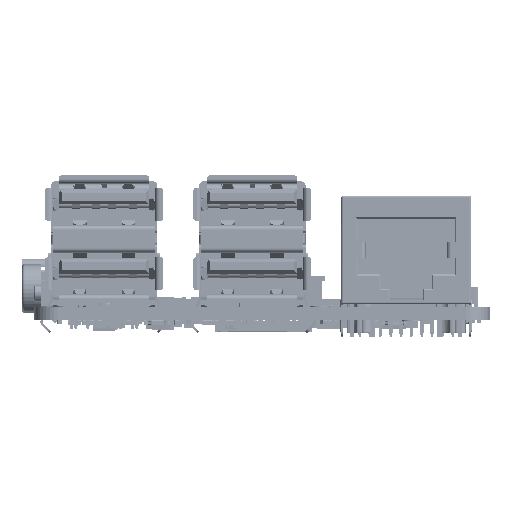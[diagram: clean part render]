
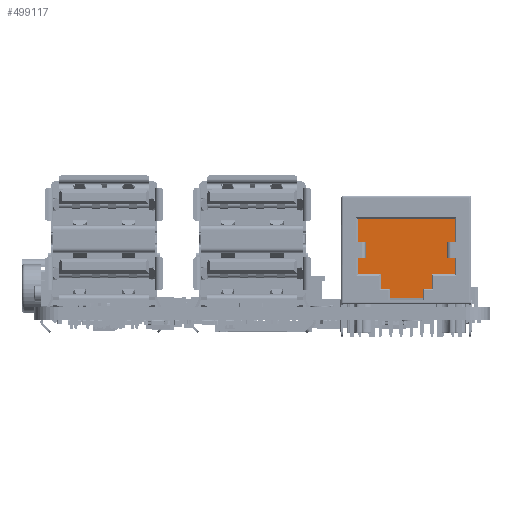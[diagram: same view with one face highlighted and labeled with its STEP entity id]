
A CAD part, front view. The second image highlights one B-rep face of the part: STEP entity #499117.
In plain terms, the highlighted planar face has unit normal (0, -1, 0).
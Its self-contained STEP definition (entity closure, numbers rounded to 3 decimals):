
#151596=DIRECTION('',(0.,0.,1.));
#151597=VECTOR('',#151596,2.77);
#151598=CARTESIAN_POINT('',(36.803,6.8,9.68));
#151599=LINE('',#151598,#151597);
#151603=DIRECTION('',(1.,0.,0.));
#151604=VECTOR('',#151603,11.9);
#151605=CARTESIAN_POINT('',(36.803,6.8,12.45));
#151606=LINE('',#151605,#151604);
#151610=DIRECTION('',(0.,0.,-1.));
#151611=VECTOR('',#151610,2.77);
#151612=CARTESIAN_POINT('',(48.703,6.8,12.45));
#151613=LINE('',#151612,#151611);
#151617=DIRECTION('',(-1.,0.,0.));
#151618=VECTOR('',#151617,0.95);
#151619=CARTESIAN_POINT('',(48.703,6.8,9.68));
#151620=LINE('',#151619,#151618);
#151624=DIRECTION('',(0.,0.,-1.));
#151625=VECTOR('',#151624,2.);
#151626=CARTESIAN_POINT('',(47.753,6.8,9.68));
#151627=LINE('',#151626,#151625);
#151631=DIRECTION('',(1.,0.,0.));
#151632=VECTOR('',#151631,0.95);
#151633=CARTESIAN_POINT('',(47.753,6.8,7.68));
#151634=LINE('',#151633,#151632);
#151638=DIRECTION('',(0.,0.,-1.));
#151639=VECTOR('',#151638,2.03);
#151640=CARTESIAN_POINT('',(48.703,6.8,7.68));
#151641=LINE('',#151640,#151639);
#151645=DIRECTION('',(-1.,0.,0.));
#151646=VECTOR('',#151645,2.8);
#151647=CARTESIAN_POINT('',(48.703,6.8,5.65));
#151648=LINE('',#151647,#151646);
#151652=DIRECTION('',(0.,0.,-1.));
#151653=VECTOR('',#151652,1.76);
#151654=CARTESIAN_POINT('',(45.903,6.8,5.65));
#151655=LINE('',#151654,#151653);
#151659=DIRECTION('',(-1.,0.,0.));
#151660=VECTOR('',#151659,1.12);
#151661=CARTESIAN_POINT('',(45.903,6.8,3.89));
#151662=LINE('',#151661,#151660);
#151666=DIRECTION('',(0.,0.,-1.));
#151667=VECTOR('',#151666,1.14);
#151668=CARTESIAN_POINT('',(44.783,6.8,3.89));
#151669=LINE('',#151668,#151667);
#151673=DIRECTION('',(-1.,0.,0.));
#151674=VECTOR('',#151673,4.06);
#151675=CARTESIAN_POINT('',(44.783,6.8,2.75));
#151676=LINE('',#151675,#151674);
#151680=DIRECTION('',(0.,0.,1.));
#151681=VECTOR('',#151680,1.14);
#151682=CARTESIAN_POINT('',(40.723,6.8,2.75));
#151683=LINE('',#151682,#151681);
#151687=DIRECTION('',(-1.,0.,0.));
#151688=VECTOR('',#151687,1.12);
#151689=CARTESIAN_POINT('',(40.723,6.8,3.89));
#151690=LINE('',#151689,#151688);
#151694=DIRECTION('',(0.,0.,1.));
#151695=VECTOR('',#151694,1.76);
#151696=CARTESIAN_POINT('',(39.603,6.8,3.89));
#151697=LINE('',#151696,#151695);
#151701=DIRECTION('',(-1.,0.,0.));
#151702=VECTOR('',#151701,2.8);
#151703=CARTESIAN_POINT('',(39.603,6.8,5.65));
#151704=LINE('',#151703,#151702);
#151708=DIRECTION('',(0.,0.,1.));
#151709=VECTOR('',#151708,2.03);
#151710=CARTESIAN_POINT('',(36.803,6.8,5.65));
#151711=LINE('',#151710,#151709);
#151715=DIRECTION('',(1.,0.,0.));
#151716=VECTOR('',#151715,0.95);
#151717=CARTESIAN_POINT('',(36.803,6.8,7.68));
#151718=LINE('',#151717,#151716);
#151722=DIRECTION('',(0.,0.,1.));
#151723=VECTOR('',#151722,2.);
#151724=CARTESIAN_POINT('',(37.753,6.8,7.68));
#151725=LINE('',#151724,#151723);
#151729=DIRECTION('',(-1.,0.,0.));
#151730=VECTOR('',#151729,0.95);
#151731=CARTESIAN_POINT('',(37.753,6.8,9.68));
#151732=LINE('',#151731,#151730);
#322725=CARTESIAN_POINT('',(36.803,6.8,9.68));
#322726=VERTEX_POINT('',#322725);
#322727=CARTESIAN_POINT('',(37.753,6.8,9.68));
#322728=VERTEX_POINT('',#322727);
#322847=CARTESIAN_POINT('',(36.803,6.8,7.68));
#322848=VERTEX_POINT('',#322847);
#322849=CARTESIAN_POINT('',(36.803,6.8,5.65));
#322850=VERTEX_POINT('',#322849);
#322851=CARTESIAN_POINT('',(37.753,6.8,7.68));
#322852=VERTEX_POINT('',#322851);
#322853=CARTESIAN_POINT('',(36.803,6.8,12.45));
#322854=VERTEX_POINT('',#322853);
#322855=CARTESIAN_POINT('',(48.703,6.8,12.45));
#322856=VERTEX_POINT('',#322855);
#322857=CARTESIAN_POINT('',(48.703,6.8,9.68));
#322858=VERTEX_POINT('',#322857);
#322859=CARTESIAN_POINT('',(47.753,6.8,9.68));
#322860=VERTEX_POINT('',#322859);
#322861=CARTESIAN_POINT('',(47.753,6.8,7.68));
#322862=VERTEX_POINT('',#322861);
#322863=CARTESIAN_POINT('',(48.703,6.8,7.68));
#322864=VERTEX_POINT('',#322863);
#322865=CARTESIAN_POINT('',(48.703,6.8,5.65));
#322866=VERTEX_POINT('',#322865);
#322867=CARTESIAN_POINT('',(45.903,6.8,5.65));
#322868=VERTEX_POINT('',#322867);
#322869=CARTESIAN_POINT('',(45.903,6.8,3.89));
#322870=VERTEX_POINT('',#322869);
#322871=CARTESIAN_POINT('',(44.783,6.8,3.89));
#322872=VERTEX_POINT('',#322871);
#322873=CARTESIAN_POINT('',(44.783,6.8,2.75));
#322874=VERTEX_POINT('',#322873);
#322875=CARTESIAN_POINT('',(40.723,6.8,2.75));
#322876=VERTEX_POINT('',#322875);
#322877=CARTESIAN_POINT('',(40.723,6.8,3.89));
#322878=VERTEX_POINT('',#322877);
#322879=CARTESIAN_POINT('',(39.603,6.8,3.89));
#322880=VERTEX_POINT('',#322879);
#322881=CARTESIAN_POINT('',(39.603,6.8,5.65));
#322882=VERTEX_POINT('',#322881);
#499078=CARTESIAN_POINT('',(42.753,6.8,8.65));
#499079=DIRECTION('',(0.,-1.,0.));
#499080=DIRECTION('',(1.,0.,0.));
#499081=AXIS2_PLACEMENT_3D('',#499078,#499079,#499080);
#499082=PLANE('',#499081);
#499084=ORIENTED_EDGE('',*,*,#499083,.T.);
#499085=ORIENTED_EDGE('',*,*,#498425,.T.);
#499086=ORIENTED_EDGE('',*,*,#498441,.T.);
#499087=ORIENTED_EDGE('',*,*,#498501,.T.);
#499089=ORIENTED_EDGE('',*,*,#499088,.T.);
#499090=ORIENTED_EDGE('',*,*,#498537,.T.);
#499092=ORIENTED_EDGE('',*,*,#499091,.T.);
#499094=ORIENTED_EDGE('',*,*,#499093,.T.);
#499096=ORIENTED_EDGE('',*,*,#499095,.T.);
#499098=ORIENTED_EDGE('',*,*,#499097,.T.);
#499100=ORIENTED_EDGE('',*,*,#499099,.T.);
#499102=ORIENTED_EDGE('',*,*,#499101,.T.);
#499104=ORIENTED_EDGE('',*,*,#499103,.T.);
#499106=ORIENTED_EDGE('',*,*,#499105,.T.);
#499108=ORIENTED_EDGE('',*,*,#499107,.T.);
#499110=ORIENTED_EDGE('',*,*,#499109,.T.);
#499111=ORIENTED_EDGE('',*,*,#499041,.T.);
#499112=ORIENTED_EDGE('',*,*,#499056,.T.);
#499113=ORIENTED_EDGE('',*,*,#499072,.T.);
#499114=ORIENTED_EDGE('',*,*,#498331,.T.);
#499115=EDGE_LOOP('',(#499084,#499085,#499086,#499087,#499089,#499090,#499092,
#499094,#499096,#499098,#499100,#499102,#499104,#499106,#499108,#499110,#499111,
#499112,#499113,#499114));
#499116=FACE_OUTER_BOUND('',#499115,.F.);
#499117=ADVANCED_FACE('',(#499116),#499082,.T.);
#498331=EDGE_CURVE('',#322728,#322726,#151732,.T.);
#498425=EDGE_CURVE('',#322854,#322856,#151606,.T.);
#498441=EDGE_CURVE('',#322856,#322858,#151613,.T.);
#498501=EDGE_CURVE('',#322858,#322860,#151620,.T.);
#498537=EDGE_CURVE('',#322862,#322864,#151634,.T.);
#499041=EDGE_CURVE('',#322850,#322848,#151711,.T.);
#499056=EDGE_CURVE('',#322848,#322852,#151718,.T.);
#499072=EDGE_CURVE('',#322852,#322728,#151725,.T.);
#499083=EDGE_CURVE('',#322726,#322854,#151599,.T.);
#499088=EDGE_CURVE('',#322860,#322862,#151627,.T.);
#499091=EDGE_CURVE('',#322864,#322866,#151641,.T.);
#499093=EDGE_CURVE('',#322866,#322868,#151648,.T.);
#499095=EDGE_CURVE('',#322868,#322870,#151655,.T.);
#499097=EDGE_CURVE('',#322870,#322872,#151662,.T.);
#499099=EDGE_CURVE('',#322872,#322874,#151669,.T.);
#499101=EDGE_CURVE('',#322874,#322876,#151676,.T.);
#499103=EDGE_CURVE('',#322876,#322878,#151683,.T.);
#499105=EDGE_CURVE('',#322878,#322880,#151690,.T.);
#499107=EDGE_CURVE('',#322880,#322882,#151697,.T.);
#499109=EDGE_CURVE('',#322882,#322850,#151704,.T.);
